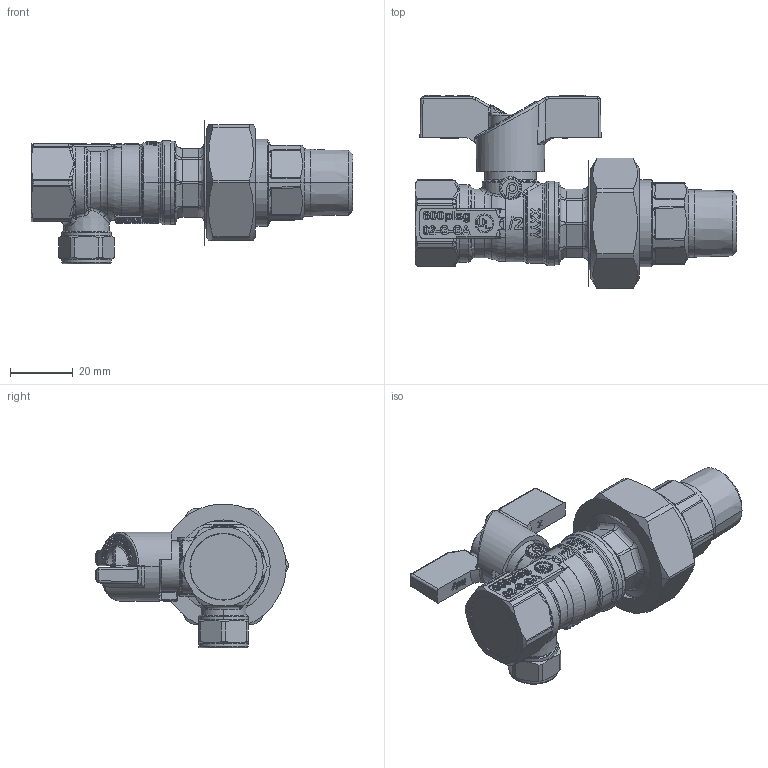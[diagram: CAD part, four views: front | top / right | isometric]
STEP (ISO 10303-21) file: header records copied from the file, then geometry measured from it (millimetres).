
FILE_DESCRIPTION((''),'2;1');
FILE_NAME('T203FU_12_X_12M_ASM','2021-08-03T15:33:19',('Sergio.Dandrea'),(''),'CREO PARAMETRIC BY PTC INC, 2021063','CREO PARAMETRIC BY PTC INC, 2021063','');
FILE_SCHEMA(('CONFIG_CONTROL_DESIGN'));
Products named in the file (18): 89161; SEDE_PTFE_F12; 87057; OR_107_AF0; OR_107_AF1; ASTA_T203_1-2_O-RING_ASM; 88402; 11104; 12146; 11108; 11109; 11107; 87046; 87131; 00191; 87218; 87058; T203FU_12_X_12M_ASM
Assembly tree (18 placements, depth 3):
  T203FU_12_X_12M_ASM
    89161
    SEDE_PTFE_F12  x2
    ASTA_T203_1-2_O-RING_ASM
      87057
      OR_107_AF0
      OR_107_AF1
    88402
    11104
    12146
    11108
    11109
    11107
    87046
    87131
    00191
    87218
    87058
Bounding box: 102.9 x 61.9 x 46.06 mm (x, y, z)
Volume: 51244 mm3; surface area: 44598 mm2
Topology: 17 solids, 30 shells, 2480 faces, 6494 edges, 4177 vertices
Faces by surface type: extrusion 1042, plane 633, cylinder 280, bspline 248, cone 131, torus 92, sphere 38, revolution 16
Entity records: 97089 total; most frequent: CARTESIAN_POINT 41675, ORIENTED_EDGE 12861, DIRECTION 8180, EDGE_CURVE 6462, VERTEX_POINT 4161, B_SPLINE_CURVE_WITH_KNOTS 3873, VECTOR 3644, EDGE_LOOP 2622
